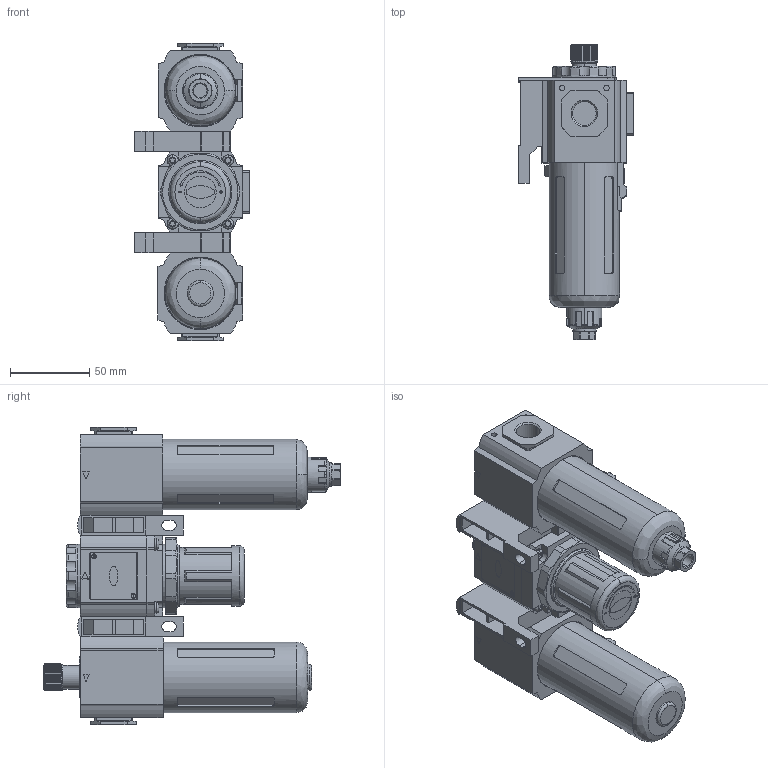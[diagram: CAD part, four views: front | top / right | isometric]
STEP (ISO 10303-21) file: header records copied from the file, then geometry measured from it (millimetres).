
FILE_DESCRIPTION (( 'STEP AP214' ), '1' );
FILE_NAME ('GC-300-10-F1.STEP', '2016-01-22T14:55:36', ( '' ), ( '' ), 'SwSTEP 2.0', 'SolidWorks 2016', '' );
FILE_SCHEMA (( 'AUTOMOTIVE_DESIGN' ));
Length unit declared in the file: millimetre
Products named in the file (29): 6; 10; 2; 9; 24; 14; 23; 4; 11; 21; 7; 16; 26; 5; 20; 19; 22; 18; GC-300-10-F1; 17; 8; 3; 28; 15; 27; 13; 25; 1; 12
Assembly tree (28 placements, depth 2):
  GC-300-10-F1
    1
    2
    3
    4
    5
    6
    7
    8
    9
    10
    11
    12
    13
    14
    15
    16
    17
    18
    19
    20
    21
    22
    23
    24
    25
    26
    27
    28
Bounding box: 72.5 x 187 x 188 mm (x, y, z)
Volume: 621865.5 mm3; surface area: 185587.3 mm2
Topology: 28 solids, 28 shells, 1916 faces, 4920 edges, 3233 vertices
Faces by surface type: plane 1223, cylinder 518, bspline 91, cone 84
Entity records: 84240 total; most frequent: CARTESIAN_POINT 15263, ORIENTED_EDGE 9840, DIRECTION 9570, EDGE_CURVE 4920, AXIS2_PLACEMENT_3D 3266, VERTEX_POINT 3233, VECTOR 3038, LINE 3038
